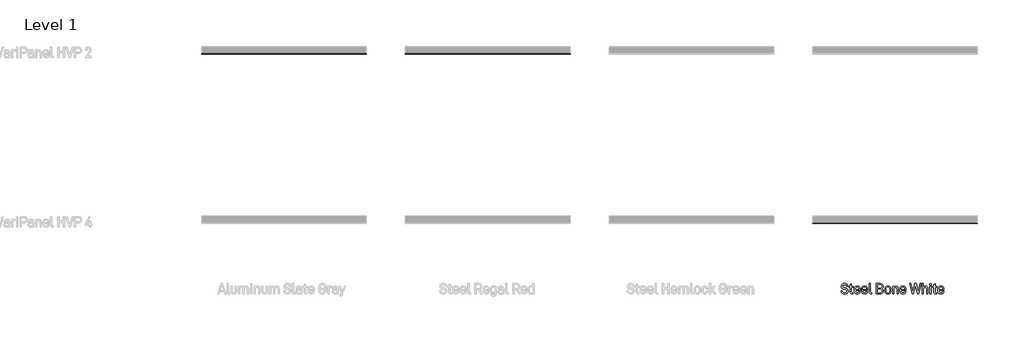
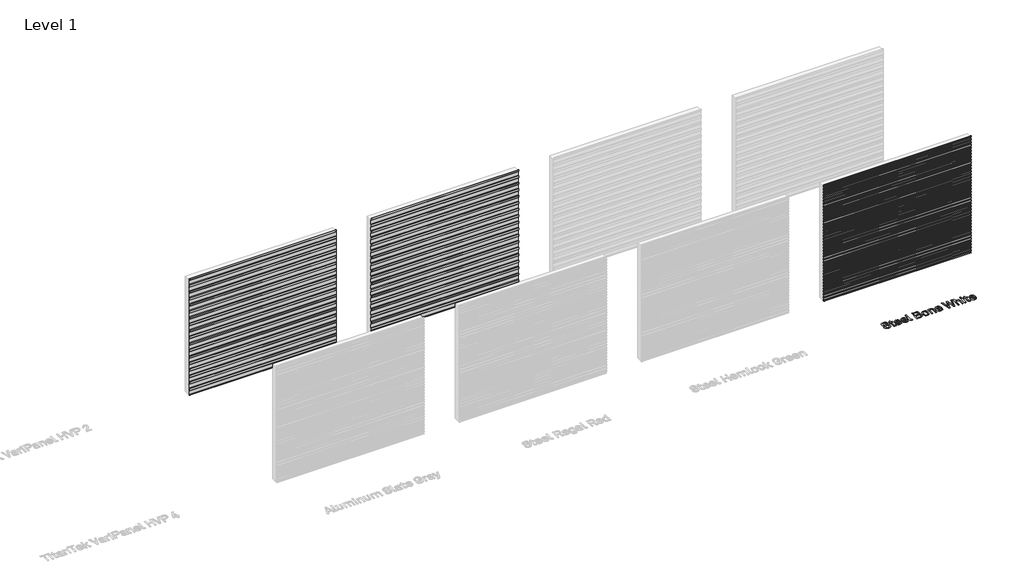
# One storey, part 8 of 33: 4 proxies.
"""IFC4 building model written with IfcOpenShell, lengths in millimetres."""

from ifc_helpers import new_model, si_unit, frame, origin, origin_with_axes, place, context, project, spatial, polyline, outline, extrude, element, save

model = new_model("IFC4")

# Units and contexts
model_context = context("Model", 3, world=origin())
ifc_project = project(units=[si_unit("LENGTHUNIT", "METRE", prefix="MILLI")], contexts=[model_context])

# Site, building, storey
site = spatial("IfcSite", under=ifc_project)
building = spatial("IfcBuilding", under=site)
storey = spatial("IfcBuildingStorey", under=building, Name="Level 1", Elevation=0.0)

# Proxies
placement = place(None, origin())
element("IfcBuildingElementProxy", 1, Name="600mm Arial 2", ObjectType="600mm Arial 2", at=placement, inside=storey, context=model_context, shape_type="SweptSolid", body=[
    extrude(outline(polyline([(16502.982716, -19997.657289), (16490.7951671, -19984.0139672), (16481.6010513, -19967.4681982), (16475.4003686, -19948.019982), (16472.1931189, -19925.6693185), (16511.5717761, -19925.6693185), (16517.1719526, -19951.3682597), (16530.1146836, -19969.7246463), (16550.3999693, -19980.7384782), (16578.0278096, -19984.4097555), (16606.0696353, -19981.079675), (16625.9955271, -19971.0894334), (16637.8964706, -19955.2215086), (16641.8634518, -19933.3849149), (16638.7517372, -19913.7865721), (16629.4165934, -19899.5381947), (16613.1665283, -19889.7845162), (16590.0379361, -19883.67027), (16556.5551591, -19878.0655442), (16523.7820715, -19868.4392459), (16499.1249177, -19852.3711523), (16490.1446186, -19841.4937991), (16483.7301192, -19828.5874624), (16478.5985197, -19796.6878384), (16480.3408979, -19777.2168757), (16485.5680325, -19760.002361), (16494.2799235, -19745.0442944), (16506.476571, -19732.3426757), (16521.2117224, -19722.4070256), (16538.048646, -19715.3101326), (16578.0278096, -19709.6326183), (16615.1864132, -19715.0007809), (16631.118028, -19721.7109842), (16645.2845182, -19731.1052687), (16657.722278, -19743.9615633), (16667.1575062, -19759.8203894), (16673.5902027, -19778.6817472), (16677.0203677, -19800.5456367), (16637.5689217, -19800.5456367), (16632.7011811, -19776.343412), (16621.0822935, -19759.0561086), (16602.7122591, -19748.6837266), (16577.5910777, -19745.226266), (16551.6783199, -19748.5563465), (16533.0444266, -19758.5465881), (16521.471032, -19774.1597526), (16517.6132337, -19794.5041791), (16520.5065824, -19812.3010029), (16529.1866284, -19825.3665648), (16544.6178213, -19834.9018774), (16566.8911468, -19841.2344896), (16601.1745989, -19847.2031585), (16635.2396851, -19857.1934001), (16660.2789792, -19874.207746), (16669.4821935, -19885.5218311), (16676.0559181, -19898.8648997), (16681.3148977, -19931.6379874), (16679.5179281, -19951.6503157), (16674.127019, -19969.2515201), (16665.1421705, -19984.4416005), (16652.5633827, -19997.2205571), (16637.1776828, -20007.3472775), (16619.2625774, -20014.5806491), (16598.8180665, -20018.9206721), (16575.8441502, -20020.3673465), (16534.9187342, -20014.6898321), (16517.8270504, -20007.5929391), (16502.982716, -19997.657289)])), origin_with_axes(), (0.0, 0.0, 1.0), 5.0),
    extrude(outline(polyline([(16777.9054305, -19958.2058431), (16779.3794006, -19969.2879144), (16783.8013108, -19977.2036796), (16791.1711612, -19981.9531387), (16801.4889517, -19983.5362918), (16822.9616021, -19983.5362918), (16822.9616021, -20017.8197439), (16796.8304784, -20017.8197439), (16773.0467884, -20013.8527627), (16754.8314298, -20001.9518191), (16743.5309926, -19983.4089116), (16739.7641802, -19959.5160387), (16739.7641802, -19823.692426), (16705.91746, -19823.692426), (16705.91746, -19791.9565765), (16739.7641802, -19791.9565765), (16739.7641802, -19743.9160704), (16777.9054305, -19725.9372749), (16777.9054305, -19791.9565765), (16826.8194004, -19791.9565765), (16826.8194004, -19823.692426), (16777.9054305, -19823.692426), (16777.9054305, -19958.2058431)])), origin_with_axes(), (0.0, 0.0, 1.0), 5.0),
    extrude(outline(polyline([(16898.8073709, -19923.5584478), (16902.2284372, -19952.9741592), (16912.4916363, -19971.9265028), (16928.9782645, -19982.2169976), (16951.0696184, -19985.6471625), (16970.3404124, -19983.0813627), (16984.4796068, -19975.3839635), (16993.1596528, -19963.6104), (16996.0530014, -19947.9426441), (16996.0530014, -19942.410707), (17032.9568448, -19942.410707), (17032.9568448, -19948.8161078), (17027.2793304, -19977.9679604), (17020.1824375, -19990.2783401), (17010.2467873, -20001.0783554), (16983.5333544, -20015.5450987), (16948.9587477, -20020.3673465), (16930.0086788, -20018.8683553), (16913.0466497, -20014.3713818), (16898.0726605, -20006.8764259), (16885.0867112, -19996.3834877), (16874.593773, -19982.7833842), (16867.0988171, -19965.9669324), (16862.6018436, -19945.9341324), (16861.1028524, -19922.684984), (16861.1028524, -19884.9804656), (16862.599569, -19862.2749574), (16867.0897186, -19842.635671), (16874.5733012, -19826.0626062), (16885.0503169, -19812.5557632), (16897.8338227, -19802.2379727), (16912.6008192, -19794.8681223), (16929.3513063, -19790.4462121), (16948.085284, -19788.972242), (16966.4871634, -19790.4462121), (16983.1148197, -19794.8681223), (16997.9682527, -19802.2379727), (17011.0474624, -19812.5557632), (17021.365253, -19825.8988318), (17028.7351033, -19842.4173051), (17033.1570136, -19862.111183), (17034.6309836, -19884.9804656), (17034.6309836, -19914.9693876), (16898.8073709, -19914.9693876), (16898.8073709, -19923.5584478)]), holes=[polyline([(16912.0549044, -19837.3766913), (16902.1192543, -19855.5010641), (16898.8073709, -19884.1070018), (16996.9264652, -19884.5437337), (16996.9264652, -19881.1226674), (16993.7055676, -19853.8815167), (16984.0428749, -19836.5032276), (16968.4297104, -19827.2226753), (16948.085284, -19824.1291578), (16927.7226604, -19827.4410412), (16912.0549044, -19837.3766913)])]), origin_with_axes(), (0.0, 0.0, 1.0), 5.0),
    extrude(outline(polyline([(17113.0971436, -19923.5584478), (17116.51821, -19952.9741592), (17126.781409, -19971.9265028), (17143.2680372, -19982.2169976), (17165.3593912, -19985.6471625), (17184.6301851, -19983.0813627), (17198.7693795, -19975.3839635), (17207.4494255, -19963.6104), (17210.3427742, -19947.9426441), (17210.3427742, -19942.410707), (17247.2466175, -19942.410707), (17247.2466175, -19948.8161078), (17241.5691031, -19977.9679604), (17234.4722102, -19990.2783401), (17224.5365601, -20001.0783554), (17197.8231271, -20015.5450987), (17163.2485204, -20020.3673465), (17144.2984515, -20018.8683553), (17127.3364224, -20014.3713818), (17112.3624332, -20006.8764259), (17099.3764839, -19996.3834877), (17088.8835457, -19982.7833842), (17081.3885899, -19965.9669324), (17076.8916163, -19945.9341324), (17075.3926252, -19922.684984), (17075.3926252, -19884.9804656), (17076.8893417, -19862.2749574), (17081.3794913, -19842.635671), (17088.8630739, -19826.0626062), (17099.3400896, -19812.5557632), (17112.1235955, -19802.2379727), (17126.890592, -19794.8681223), (17143.641079, -19790.4462121), (17162.3750567, -19788.972242), (17180.7769362, -19790.4462121), (17197.4045924, -19794.8681223), (17212.2580254, -19802.2379727), (17225.3372352, -19812.5557632), (17235.6550257, -19825.8988318), (17243.0248761, -19842.4173051), (17247.4467863, -19862.111183), (17248.9207564, -19884.9804656), (17248.9207564, -19914.9693876), (17113.0971436, -19914.9693876), (17113.0971436, -19923.5584478)]), holes=[polyline([(17126.3446771, -19837.3766913), (17116.409027, -19855.5010641), (17113.0971436, -19884.1070018), (17211.2162379, -19884.5437337), (17211.2162379, -19881.1226674), (17207.9953403, -19853.8815167), (17198.3326476, -19836.5032276), (17182.7194832, -19827.2226753), (17162.3750567, -19824.1291578), (17142.0124331, -19827.4410412), (17126.3446771, -19837.3766913)])]), origin_with_axes(), (0.0, 0.0, 1.0), 5.0),
    extrude(outline(polyline([(17311.5189916, -20001.9518191), (17300.2731458, -19982.4444621), (17296.5245306, -19956.5317042), (17296.5245306, -19713.4904165), (17334.229049, -19713.4904165), (17334.229049, -19954.7847767), (17335.6120333, -19968.1960847), (17339.7609861, -19976.6941591), (17346.7486961, -19981.1706608), (17357.3758383, -19982.662828), (17379.212432, -19982.662828), (17379.212432, -20017.8197439), (17354.3915039, -20017.8197439), (17329.5159842, -20013.8527627), (17311.5189916, -20001.9518191)])), origin_with_axes(), (0.0, 0.0, 1.0), 5.0),
    extrude(outline(polyline([(17704.1409461, -19884.9804656), (17714.1311877, -19906.6896791), (17717.4612683, -19932.5114512), (17715.8803899, -19951.3819076), (17711.1377547, -19968.1050989), (17703.2333627, -19982.6810252), (17692.1672139, -19995.1096864), (17678.3942374, -20005.0453365), (17662.3693621, -20012.1422295), (17623.5639154, -20017.8197439), (17508.2667007, -20017.8197439), (17508.2667007, -19713.4904165), (17621.0163128, -19713.4904165), (17659.4487177, -19718.8585791), (17675.0618822, -19725.5687824), (17688.2730214, -19734.9630669), (17698.9729523, -19746.9549963), (17706.6157601, -19761.0941907), (17711.2014447, -19777.3806502), (17712.7300063, -19795.8143747), (17709.5091087, -19818.6518123), (17699.846416, -19839.1236188), (17688.4004015, -19852.1891807), (17674.588756, -19861.3969444), (17691.4029331, -19871.5873548), (17704.1409461, -19884.9804656)]), holes=[polyline([(17548.1548785, -19844.218824), (17617.5952465, -19844.218824), (17640.9422045, -19841.3254754), (17658.7208312, -19832.6454294), (17669.3115792, -19818.0695031), (17672.8418285, -19797.4885135), (17669.4207621, -19777.0349041), (17659.1575631, -19761.9676545), (17641.9794427, -19752.9600596), (17617.9591897, -19749.9575279), (17548.1548785, -19749.9575279), (17548.1548785, -19844.218824)]), polyline([(17662.5786295, -19968.1050989), (17673.8244752, -19952.4555401), (17677.5730905, -19930.4005805), (17673.9336582, -19908.7277612), (17663.0153613, -19893.4967371), (17645.0183687, -19883.8886359), (17620.1428491, -19880.6859355), (17548.1548785, -19880.6859355), (17548.1548785, -19981.3526324), (17619.7061172, -19981.3526324), (17644.5816368, -19978.040749), (17662.5786295, -19968.1050989)])]), origin_with_axes(), (0.0, 0.0, 1.0), 5.0),
    extrude(outline(polyline([(17788.794141, -19998.0940209), (17778.3171253, -19985.1330927), (17770.8335427, -19968.9603655), (17766.3433931, -19949.5758393), (17764.8466766, -19926.9795141), (17764.8466766, -19882.3600743), (17766.3456677, -19859.9548194), (17770.8426412, -19840.7067719), (17778.3375971, -19824.6159319), (17788.8305353, -19811.6822994), (17801.8164846, -19801.7466493), (17816.7904738, -19794.6497564), (17852.7025718, -19788.972242), (17887.5865302, -19794.6497564), (17902.3125831, -19801.7466493), (17915.2280184, -19811.6822994), (17925.7368791, -19824.4521575), (17933.2432082, -19840.4884059), (17937.7470057, -19859.7910449), (17939.2482715, -19882.3600743), (17939.2482715, -19926.9795141), (17937.7470057, -19949.5485435), (17933.2432082, -19968.8511825), (17925.7368791, -19984.887431), (17915.2280184, -19997.657289), (17902.3125831, -20007.5929391), (17887.5865302, -20014.6898321), (17852.7025718, -20020.3673465), (17816.5630093, -20014.7990151), (17801.6322383, -20007.8386008), (17788.794141, -19998.0940209)]), holes=[polyline([(17888.2234309, -19972.399629), (17898.2136725, -19954.1660733), (17901.543753, -19925.2325866), (17901.543753, -19884.1070018), (17898.2136725, -19855.5010641), (17888.2234309, -19837.3766913), (17872.9378153, -19827.4410412), (17852.7025718, -19824.1291578), (17831.6848504, -19827.4410412), (17815.7987285, -19837.3766913), (17805.8630784, -19855.5010641), (17802.551195, -19884.1070018), (17802.551195, -19925.2325866), (17805.8630784, -19954.1660733), (17815.7987285, -19972.399629), (17831.6848504, -19982.3352791), (17852.7025718, -19985.6471625), (17872.9378153, -19982.3352791), (17888.2234309, -19972.399629)])]), origin_with_axes(), (0.0, 0.0, 1.0), 5.0),
    extrude(outline(polyline([(18027.9048419, -19791.9565765), (18027.9048419, -19810.3721038), (18046.3203692, -19797.1245703), (18063.4802924, -19791.337873), (18082.3507488, -19789.4089739), (18114.6871046, -19794.8681223), (18127.8118073, -19801.6920578), (18138.9075264, -19811.2455676), (18147.5375302, -19822.8280608), (18153.7018187, -19836.6124106), (18158.6332494, -19870.7866797), (18158.6332494, -20017.8197439), (18120.928731, -20017.8197439), (18120.928731, -19875.0812098), (18117.9261993, -19852.6987012), (18108.9186044, -19836.9399595), (18094.2243966, -19827.3318582), (18075.0354899, -19824.1291578), (18055.8647804, -19827.3318582), (18041.225164, -19836.9399595), (18031.5624713, -19853.3537991), (18028.3415737, -19875.0812098), (18028.3415737, -20017.8197439), (17990.6370553, -20017.8197439), (17990.6370553, -19791.9565765), (18027.9048419, -19791.9565765)])), origin_with_axes(), (0.0, 0.0, 1.0), 5.0),
    extrude(outline(polyline([(18245.1061604, -19923.5584478), (18248.5272268, -19952.9741592), (18258.7904258, -19971.9265028), (18275.277054, -19982.2169976), (18297.368408, -19985.6471625), (18316.6392019, -19983.0813627), (18330.7783963, -19975.3839635), (18339.4584423, -19963.6104), (18342.351791, -19947.9426441), (18342.351791, -19942.410707), (18379.2556343, -19942.410707), (18379.2556343, -19948.8161078), (18373.5781199, -19977.9679604), (18366.481227, -19990.2783401), (18356.5455769, -20001.0783554), (18329.8321439, -20015.5450987), (18295.2575372, -20020.3673465), (18276.3074683, -20018.8683553), (18259.3454392, -20014.3713818), (18244.37145, -20006.8764259), (18231.3855007, -19996.3834877), (18220.8925625, -19982.7833842), (18213.3976067, -19965.9669324), (18208.9006331, -19945.9341324), (18207.401642, -19922.684984), (18207.401642, -19884.9804656), (18208.8983585, -19862.2749574), (18213.3885081, -19842.635671), (18220.8720907, -19826.0626062), (18231.3491064, -19812.5557632), (18244.1326123, -19802.2379727), (18258.8996088, -19794.8681223), (18275.6500958, -19790.4462121), (18294.3840735, -19788.972242), (18312.785953, -19790.4462121), (18329.4136092, -19794.8681223), (18344.2670422, -19802.2379727), (18357.346252, -19812.5557632), (18367.6640425, -19825.8988318), (18375.0338929, -19842.4173051), (18379.4558031, -19862.111183), (18380.9297732, -19884.9804656), (18380.9297732, -19914.9693876), (18245.1061604, -19914.9693876), (18245.1061604, -19923.5584478)]), holes=[polyline([(18258.3536939, -19837.3766913), (18248.4180438, -19855.5010641), (18245.1061604, -19884.1070018), (18343.2252547, -19884.5437337), (18343.2252547, -19881.1226674), (18340.0043571, -19853.8815167), (18330.3416644, -19836.5032276), (18314.7285, -19827.2226753), (18294.3840735, -19824.1291578), (18274.0214499, -19827.4410412), (18258.3536939, -19837.3766913)])]), origin_with_axes(), (0.0, 0.0, 1.0), 5.0),
    extrude(outline(polyline([(18799.3916969, -19713.4904165), (18837.5329472, -19713.4904165), (18761.2504466, -20017.8197439), (18726.5302626, -20017.8197439), (18664.3687592, -19774.7784561), (18603.9541834, -20017.8197439), (18569.2339994, -20017.8197439), (18491.2773599, -19713.4904165), (18530.6560172, -19713.4904165), (18587.2855835, -19944.0848458), (18641.6587018, -19713.4904165), (18688.3890123, -19713.4904165), (18744.9457899, -19944.0848458), (18799.3916969, -19713.4904165)])), origin_with_axes(), (0.0, 0.0, 1.0), 5.0),
    extrude(outline(polyline([(18899.4760846, -19713.4904165), (18899.4760846, -19810.8088357), (18923.0596058, -19794.7589393), (18953.4852597, -19789.4089739), (18985.2757006, -19794.7589393), (18998.3731076, -19801.4463961), (19009.6053054, -19810.8088357), (19018.4263794, -19822.5823991), (19024.7271466, -19836.5032276), (19029.7677603, -19870.7866797), (19029.7677603, -20017.8197439), (18992.0632418, -20017.8197439), (18992.0632418, -19875.0812098), (18989.0607102, -19852.6987012), (18980.0531153, -19836.9399595), (18965.3589075, -19827.3318582), (18946.1700008, -19824.1291578), (18926.9992912, -19827.3318582), (18912.3596749, -19836.9399595), (18902.6969822, -19853.3537991), (18899.4760846, -19875.0812098), (18899.4760846, -20017.8197439), (18861.7715662, -20017.8197439), (18861.7715662, -19713.4904165), (18899.4760846, -19713.4904165)])), origin_with_axes(), (0.0, 0.0, 1.0), 5.0),
    extrude(outline(polyline([(19127.3773341, -19717.7849466), (19127.3773341, -19764.9519889), (19087.9258881, -19764.9519889), (19087.9258881, -19717.7849466), (19127.3773341, -19717.7849466)])), origin_with_axes(), (0.0, 0.0, 1.0), 5.0),
    extrude(outline(polyline([(19126.5038703, -19791.9565765), (19126.5038703, -20017.8197439), (19088.7993519, -20017.8197439), (19088.7993519, -19791.9565765), (19126.5038703, -19791.9565765)])), origin_with_axes(), (0.0, 0.0, 1.0), 5.0),
    extrude(outline(polyline([(19242.2378169, -19958.2058431), (19243.7117869, -19969.2879144), (19248.1336972, -19977.2036796), (19255.5035475, -19981.9531387), (19265.821338, -19983.5362918), (19287.2939885, -19983.5362918), (19287.2939885, -20017.8197439), (19261.1628647, -20017.8197439), (19237.3791748, -20013.8527627), (19219.1638162, -20001.9518191), (19207.863379, -19983.4089116), (19204.0965666, -19959.5160387), (19204.0965666, -19823.692426), (19170.2498463, -19823.692426), (19170.2498463, -19791.9565765), (19204.0965666, -19791.9565765), (19204.0965666, -19743.9160704), (19242.2378169, -19725.9372749), (19242.2378169, -19791.9565765), (19291.1517867, -19791.9565765), (19291.1517867, -19823.692426), (19242.2378169, -19823.692426), (19242.2378169, -19958.2058431)])), origin_with_axes(), (0.0, 0.0, 1.0), 5.0),
    extrude(outline(polyline([(19363.1397572, -19923.5584478), (19366.5608236, -19952.9741592), (19376.8240226, -19971.9265028), (19393.3106509, -19982.2169976), (19415.4020048, -19985.6471625), (19434.6727987, -19983.0813627), (19448.8119932, -19975.3839635), (19457.4920391, -19963.6104), (19460.3853878, -19947.9426441), (19460.3853878, -19942.410707), (19497.2892311, -19942.410707), (19497.2892311, -19948.8161078), (19491.6117168, -19977.9679604), (19484.5148238, -19990.2783401), (19474.5791737, -20001.0783554), (19447.8657408, -20015.5450987), (19413.2911341, -20020.3673465), (19394.3410651, -20018.8683553), (19377.379036, -20014.3713818), (19362.4050469, -20006.8764259), (19349.4190975, -19996.3834877), (19338.9261594, -19982.7833842), (19331.4312035, -19965.9669324), (19326.93423, -19945.9341324), (19325.4352388, -19922.684984), (19325.4352388, -19884.9804656), (19326.9319553, -19862.2749574), (19331.4221049, -19842.635671), (19338.9056875, -19826.0626062), (19349.3827032, -19812.5557632), (19362.1662091, -19802.2379727), (19376.9332056, -19794.8681223), (19393.6836927, -19790.4462121), (19412.4176703, -19788.972242), (19430.8195498, -19790.4462121), (19447.447206, -19794.8681223), (19462.300639, -19802.2379727), (19475.3798488, -19812.5557632), (19485.6976393, -19825.8988318), (19493.0674897, -19842.4173051), (19497.4893999, -19862.111183), (19498.96337, -19884.9804656), (19498.96337, -19914.9693876), (19363.1397572, -19914.9693876), (19363.1397572, -19923.5584478)]), holes=[polyline([(19376.3872908, -19837.3766913), (19366.4516406, -19855.5010641), (19363.1397572, -19884.1070018), (19461.2588516, -19884.5437337), (19461.2588516, -19881.1226674), (19458.037954, -19853.8815167), (19448.3752613, -19836.5032276), (19432.7620968, -19827.2226753), (19412.4176703, -19824.1291578), (19392.0550467, -19827.4410412), (19376.3872908, -19837.3766913)])]), origin_with_axes(), (0.0, 0.0, 1.0), 5.0),
])
element("IfcBuildingElementProxy", 2, Name="TitanTek VariPanel HVP 2 : Aluminum Slate Gray", ObjectType="TitanTek VariPanel HVP 2 : Aluminum Slate Gray", at=placement, inside=storey, context=model_context, shape_type="SweptSolid", body=[
    extrude(outline(polyline([(-12945.79831, 3997.729257), (-12921.3904975, 3972.7489785), (-12921.3904975, 3845.7489785), (-12945.79831, 3836.3796971), (-12945.79831, 3768.1495599), (-12921.3904975, 3743.1692814), (-12921.3904975, 3616.1692814), (-12945.79831, 3606.8), (-12945.79831, 3607.8627767), (-12922.382685, 3616.851193), (-12922.382685, 3742.7650244), (-12946.7904975, 3767.7453029), (-12946.7904975, 3837.0616087), (-12922.382685, 3846.43089), (-12922.382685, 3972.3447215), (-12946.7904975, 3997.325), (-12946.7904975, 4057.2691349), (-12945.79831, 4057.65), (-12945.79831, 3997.729257)])), frame((-2360.5897817, 0.0, 0.0), z_axis=(1.0, 0.0, 0.0), x_axis=(0.0, 1.0, 0.0)), (0.0, 0.0, 1.0), 4850.0),
    extrude(outline(polyline([(-12945.79831, 3546.879257), (-12921.3904975, 3521.8989785), (-12921.3904975, 3394.8989785), (-12945.79831, 3385.5296971), (-12945.79831, 3317.2995599), (-12921.3904975, 3292.3192814), (-12921.3904975, 3165.3192814), (-12945.79831, 3155.95), (-12945.79831, 3157.0127767), (-12922.382685, 3166.001193), (-12922.382685, 3291.9150244), (-12946.7904975, 3316.8953029), (-12946.7904975, 3386.2116087), (-12922.382685, 3395.58089), (-12922.382685, 3521.4947215), (-12946.7904975, 3546.475), (-12946.7904975, 3606.4191349), (-12945.79831, 3606.8), (-12945.79831, 3546.879257)])), frame((-2360.5897817, 0.0, 0.0), z_axis=(1.0, 0.0, 0.0), x_axis=(0.0, 1.0, 0.0)), (0.0, 0.0, 1.0), 4850.0),
    extrude(outline(polyline([(-12945.79831, 3096.029257), (-12921.3904975, 3071.0489785), (-12921.3904975, 2944.0489785), (-12945.79831, 2934.6796971), (-12945.79831, 2866.4495599), (-12921.3904975, 2841.4692814), (-12921.3904975, 2714.4692814), (-12945.79831, 2705.1), (-12945.79831, 2706.1627767), (-12922.382685, 2715.151193), (-12922.382685, 2841.0650244), (-12946.7904975, 2866.0453029), (-12946.7904975, 2935.3616087), (-12922.382685, 2944.73089), (-12922.382685, 3070.6447215), (-12946.7904975, 3095.625), (-12946.7904975, 3155.5691349), (-12945.79831, 3155.95), (-12945.79831, 3096.029257)])), frame((-2360.5897817, 0.0, 0.0), z_axis=(1.0, 0.0, 0.0), x_axis=(0.0, 1.0, 0.0)), (0.0, 0.0, 1.0), 4850.0),
    extrude(outline(polyline([(-12945.79831, 2645.179257), (-12921.3904975, 2620.1989785), (-12921.3904975, 2493.1989785), (-12945.79831, 2483.8296971), (-12945.79831, 2415.5995599), (-12921.3904975, 2390.6192814), (-12921.3904975, 2263.6192814), (-12945.79831, 2254.25), (-12945.79831, 2255.3127767), (-12922.382685, 2264.301193), (-12922.382685, 2390.2150244), (-12946.7904975, 2415.1953029), (-12946.7904975, 2484.5116087), (-12922.382685, 2493.88089), (-12922.382685, 2619.7947215), (-12946.7904975, 2644.775), (-12946.7904975, 2704.7191349), (-12945.79831, 2705.1), (-12945.79831, 2645.179257)])), frame((-2360.5897817, 0.0, 0.0), z_axis=(1.0, 0.0, 0.0), x_axis=(0.0, 1.0, 0.0)), (0.0, 0.0, 1.0), 4850.0),
    extrude(outline(polyline([(-12945.79831, 2194.329257), (-12921.3904975, 2169.3489785), (-12921.3904975, 2042.3489785), (-12945.79831, 2032.9796971), (-12945.79831, 1964.7495599), (-12921.3904975, 1939.7692814), (-12921.3904975, 1812.7692814), (-12945.79831, 1803.4), (-12945.79831, 1804.4627767), (-12922.382685, 1813.451193), (-12922.382685, 1939.3650244), (-12946.7904975, 1964.3453029), (-12946.7904975, 2033.6616087), (-12922.382685, 2043.03089), (-12922.382685, 2168.9447215), (-12946.7904975, 2193.925), (-12946.7904975, 2253.8691349), (-12945.79831, 2254.25), (-12945.79831, 2194.329257)])), frame((-2360.5897817, 0.0, 0.0), z_axis=(1.0, 0.0, 0.0), x_axis=(0.0, 1.0, 0.0)), (0.0, 0.0, 1.0), 4850.0),
    extrude(outline(polyline([(-12945.79831, 1743.479257), (-12921.3904975, 1718.4989785), (-12921.3904975, 1591.4989785), (-12945.79831, 1582.1296971), (-12945.79831, 1513.8995599), (-12921.3904975, 1488.9192814), (-12921.3904975, 1361.9192814), (-12945.79831, 1352.55), (-12945.79831, 1353.6127767), (-12922.382685, 1362.601193), (-12922.382685, 1488.5150244), (-12946.7904975, 1513.4953029), (-12946.7904975, 1582.8116087), (-12922.382685, 1592.18089), (-12922.382685, 1718.0947215), (-12946.7904975, 1743.075), (-12946.7904975, 1803.0191349), (-12945.79831, 1803.4), (-12945.79831, 1743.479257)])), frame((-2360.5897817, 0.0, 0.0), z_axis=(1.0, 0.0, 0.0), x_axis=(0.0, 1.0, 0.0)), (0.0, 0.0, 1.0), 4850.0),
    extrude(outline(polyline([(-12945.79831, 1292.629257), (-12921.3904975, 1267.6489785), (-12921.3904975, 1140.6489785), (-12945.79831, 1131.2796971), (-12945.79831, 1063.0495599), (-12921.3904975, 1038.0692814), (-12921.3904975, 911.0692814), (-12945.79831, 901.7), (-12945.79831, 902.7627767), (-12922.382685, 911.751193), (-12922.382685, 1037.6650244), (-12946.7904975, 1062.6453029), (-12946.7904975, 1131.9616087), (-12922.382685, 1141.33089), (-12922.382685, 1267.2447215), (-12946.7904975, 1292.225), (-12946.7904975, 1352.1691349), (-12945.79831, 1352.55), (-12945.79831, 1292.629257)])), frame((-2360.5897817, 0.0, 0.0), z_axis=(1.0, 0.0, 0.0), x_axis=(0.0, 1.0, 0.0)), (0.0, 0.0, 1.0), 4850.0),
    extrude(outline(polyline([(-12945.79831, 841.779257), (-12921.3904975, 816.7989785), (-12921.3904975, 689.7989785), (-12945.79831, 680.4296971), (-12945.79831, 612.1995599), (-12921.3904975, 587.2192814), (-12921.3904975, 460.2192814), (-12945.79831, 450.85), (-12945.79831, 451.9127767), (-12922.382685, 460.901193), (-12922.382685, 586.8150244), (-12946.7904975, 611.7953029), (-12946.7904975, 681.1116087), (-12922.382685, 690.48089), (-12922.382685, 816.3947215), (-12946.7904975, 841.375), (-12946.7904975, 901.3191349), (-12945.79831, 901.7), (-12945.79831, 841.779257)])), frame((-2360.5897817, 0.0, 0.0), z_axis=(1.0, 0.0, 0.0), x_axis=(0.0, 1.0, 0.0)), (0.0, 0.0, 1.0), 4850.0),
    extrude(outline(polyline([(-12945.79831, 390.929257), (-12921.3904975, 365.9489785), (-12921.3904975, 238.9489785), (-12945.79831, 229.5796971), (-12945.79831, 161.3495599), (-12921.3904975, 136.3692814), (-12921.3904975, 9.3692814), (-12945.79831, 0.0), (-12945.79831, 1.0627767), (-12922.382685, 10.051193), (-12922.382685, 135.9650244), (-12946.7904975, 160.9453029), (-12946.7904975, 230.2616087), (-12922.382685, 239.63089), (-12922.382685, 365.5447215), (-12946.7904975, 390.525), (-12946.7904975, 450.4691349), (-12945.79831, 450.85), (-12945.79831, 390.929257)])), frame((-2360.5897817, 0.0, 0.0), z_axis=(1.0, 0.0, 0.0), x_axis=(0.0, 1.0, 0.0)), (0.0, 0.0, 1.0), 4850.0),
])
element("IfcBuildingElementProxy", 3, Name="TitanTek VariPanel HVP 4 : Steel Bone White", ObjectType="TitanTek VariPanel HVP 4 : Steel Bone White", at=placement, inside=storey, context=model_context, shape_type="SweptSolid", body=[
    extrude(outline(polyline([(-17945.79831, 375.054257), (-17921.3904975, 350.0739785), (-17921.3904975, 318.3239785), (-17945.79831, 308.9546971), (-17945.79831, 272.0693579), (-17921.3904975, 247.0890794), (-17921.3904975, 215.3390794), (-17945.79831, 205.9697981), (-17945.79831, 169.0844589), (-17921.3904975, 144.1041804), (-17921.3904975, 112.3541804), (-17945.79831, 102.984899), (-17945.79831, 66.0995599), (-17921.3904975, 41.1192814), (-17921.3904975, 9.3692814), (-17945.79831, 0.0), (-17945.79831, 1.0627767), (-17922.382685, 10.051193), (-17922.382685, 40.7150244), (-17946.7904975, 65.6953029), (-17946.7904975, 103.6668106), (-17922.382685, 113.036092), (-17922.382685, 143.6999234), (-17946.7904975, 168.6802019), (-17946.7904975, 206.6517096), (-17922.382685, 216.020991), (-17922.382685, 246.6848225), (-17946.7904975, 271.665101), (-17946.7904975, 309.6366087), (-17922.382685, 319.00589), (-17922.382685, 349.6697215), (-17946.7904975, 374.65), (-17946.7904975, 407.0819116), (-17945.79831, 407.4627767), (-17945.79831, 375.054257)])), frame((15639.4102183, 0.0, 0.0), z_axis=(1.0, 0.0, 0.0), x_axis=(0.0, 1.0, 0.0)), (0.0, 0.0, 1.0), 4850.0),
    extrude(outline(polyline([(-17945.79831, 781.454257), (-17921.3904975, 756.4739785), (-17921.3904975, 724.7239785), (-17945.79831, 715.3546971), (-17945.79831, 678.4693579), (-17921.3904975, 653.4890794), (-17921.3904975, 621.7390794), (-17945.79831, 612.3697981), (-17945.79831, 575.4844589), (-17921.3904975, 550.5041804), (-17921.3904975, 518.7541804), (-17945.79831, 509.384899), (-17945.79831, 472.4995599), (-17921.3904975, 447.5192814), (-17921.3904975, 415.7692814), (-17945.79831, 406.4), (-17945.79831, 407.4627767), (-17922.382685, 416.451193), (-17922.382685, 447.1150244), (-17946.7904975, 472.0953029), (-17946.7904975, 510.0668106), (-17922.382685, 519.436092), (-17922.382685, 550.0999234), (-17946.7904975, 575.0802019), (-17946.7904975, 613.0517096), (-17922.382685, 622.420991), (-17922.382685, 653.0848225), (-17946.7904975, 678.065101), (-17946.7904975, 716.0366087), (-17922.382685, 725.40589), (-17922.382685, 756.0697215), (-17946.7904975, 781.05), (-17946.7904975, 813.4819116), (-17945.79831, 813.8627767), (-17945.79831, 781.454257)])), frame((15639.4102183, 0.0, 0.0), z_axis=(1.0, 0.0, 0.0), x_axis=(0.0, 1.0, 0.0)), (0.0, 0.0, 1.0), 4850.0),
    extrude(outline(polyline([(-17945.79831, 1187.854257), (-17921.3904975, 1162.8739785), (-17921.3904975, 1131.1239785), (-17945.79831, 1121.7546971), (-17945.79831, 1084.8693579), (-17921.3904975, 1059.8890794), (-17921.3904975, 1028.1390794), (-17945.79831, 1018.7697981), (-17945.79831, 981.8844589), (-17921.3904975, 956.9041804), (-17921.3904975, 925.1541804), (-17945.79831, 915.784899), (-17945.79831, 878.8995599), (-17921.3904975, 853.9192814), (-17921.3904975, 822.1692814), (-17945.79831, 812.8), (-17945.79831, 813.8627767), (-17922.382685, 822.851193), (-17922.382685, 853.5150244), (-17946.7904975, 878.4953029), (-17946.7904975, 916.4668106), (-17922.382685, 925.836092), (-17922.382685, 956.4999234), (-17946.7904975, 981.4802019), (-17946.7904975, 1019.4517096), (-17922.382685, 1028.820991), (-17922.382685, 1059.4848225), (-17946.7904975, 1084.465101), (-17946.7904975, 1122.4366087), (-17922.382685, 1131.80589), (-17922.382685, 1162.4697215), (-17946.7904975, 1187.45), (-17946.7904975, 1219.8819116), (-17945.79831, 1220.2627767), (-17945.79831, 1187.854257)])), frame((15639.4102183, 0.0, 0.0), z_axis=(1.0, 0.0, 0.0), x_axis=(0.0, 1.0, 0.0)), (0.0, 0.0, 1.0), 4850.0),
    extrude(outline(polyline([(-17945.79831, 1594.254257), (-17921.3904975, 1569.2739785), (-17921.3904975, 1537.5239785), (-17945.79831, 1528.1546971), (-17945.79831, 1491.2693579), (-17921.3904975, 1466.2890794), (-17921.3904975, 1434.5390794), (-17945.79831, 1425.1697981), (-17945.79831, 1388.2844589), (-17921.3904975, 1363.3041804), (-17921.3904975, 1331.5541804), (-17945.79831, 1322.184899), (-17945.79831, 1285.2995599), (-17921.3904975, 1260.3192814), (-17921.3904975, 1228.5692814), (-17945.79831, 1219.2), (-17945.79831, 1220.2627767), (-17922.382685, 1229.251193), (-17922.382685, 1259.9150244), (-17946.7904975, 1284.8953029), (-17946.7904975, 1322.8668106), (-17922.382685, 1332.236092), (-17922.382685, 1362.8999234), (-17946.7904975, 1387.8802019), (-17946.7904975, 1425.8517096), (-17922.382685, 1435.220991), (-17922.382685, 1465.8848225), (-17946.7904975, 1490.865101), (-17946.7904975, 1528.8366087), (-17922.382685, 1538.20589), (-17922.382685, 1568.8697215), (-17946.7904975, 1593.85), (-17946.7904975, 1626.2819116), (-17945.79831, 1626.6627767), (-17945.79831, 1594.254257)])), frame((15639.4102183, 0.0, 0.0), z_axis=(1.0, 0.0, 0.0), x_axis=(0.0, 1.0, 0.0)), (0.0, 0.0, 1.0), 4850.0),
    extrude(outline(polyline([(-17945.79831, 2000.654257), (-17921.3904975, 1975.6739785), (-17921.3904975, 1943.9239785), (-17945.79831, 1934.5546971), (-17945.79831, 1897.6693579), (-17921.3904975, 1872.6890794), (-17921.3904975, 1840.9390794), (-17945.79831, 1831.5697981), (-17945.79831, 1794.6844589), (-17921.3904975, 1769.7041804), (-17921.3904975, 1737.9541804), (-17945.79831, 1728.584899), (-17945.79831, 1691.6995599), (-17921.3904975, 1666.7192814), (-17921.3904975, 1634.9692814), (-17945.79831, 1625.6), (-17945.79831, 1626.6627767), (-17922.382685, 1635.651193), (-17922.382685, 1666.3150244), (-17946.7904975, 1691.2953029), (-17946.7904975, 1729.2668106), (-17922.382685, 1738.636092), (-17922.382685, 1769.2999234), (-17946.7904975, 1794.2802019), (-17946.7904975, 1832.2517096), (-17922.382685, 1841.620991), (-17922.382685, 1872.2848225), (-17946.7904975, 1897.265101), (-17946.7904975, 1935.2366087), (-17922.382685, 1944.60589), (-17922.382685, 1975.2697215), (-17946.7904975, 2000.25), (-17946.7904975, 2032.6819116), (-17945.79831, 2033.0627767), (-17945.79831, 2000.654257)])), frame((15639.4102183, 0.0, 0.0), z_axis=(1.0, 0.0, 0.0), x_axis=(0.0, 1.0, 0.0)), (0.0, 0.0, 1.0), 4850.0),
    extrude(outline(polyline([(-17945.79831, 2407.054257), (-17921.3904975, 2382.0739785), (-17921.3904975, 2350.3239785), (-17945.79831, 2340.9546971), (-17945.79831, 2304.0693579), (-17921.3904975, 2279.0890794), (-17921.3904975, 2247.3390794), (-17945.79831, 2237.9697981), (-17945.79831, 2201.0844589), (-17921.3904975, 2176.1041804), (-17921.3904975, 2144.3541804), (-17945.79831, 2134.984899), (-17945.79831, 2098.0995599), (-17921.3904975, 2073.1192814), (-17921.3904975, 2041.3692814), (-17945.79831, 2032.0), (-17945.79831, 2033.0627767), (-17922.382685, 2042.051193), (-17922.382685, 2072.7150244), (-17946.7904975, 2097.6953029), (-17946.7904975, 2135.6668106), (-17922.382685, 2145.036092), (-17922.382685, 2175.6999234), (-17946.7904975, 2200.6802019), (-17946.7904975, 2238.6517096), (-17922.382685, 2248.020991), (-17922.382685, 2278.6848225), (-17946.7904975, 2303.665101), (-17946.7904975, 2341.6366087), (-17922.382685, 2351.00589), (-17922.382685, 2381.6697215), (-17946.7904975, 2406.65), (-17946.7904975, 2439.0819116), (-17945.79831, 2439.4627767), (-17945.79831, 2407.054257)])), frame((15639.4102183, 0.0, 0.0), z_axis=(1.0, 0.0, 0.0), x_axis=(0.0, 1.0, 0.0)), (0.0, 0.0, 1.0), 4850.0),
    extrude(outline(polyline([(-17945.79831, 2813.454257), (-17921.3904975, 2788.4739785), (-17921.3904975, 2756.7239785), (-17945.79831, 2747.3546971), (-17945.79831, 2710.4693579), (-17921.3904975, 2685.4890794), (-17921.3904975, 2653.7390794), (-17945.79831, 2644.3697981), (-17945.79831, 2607.4844589), (-17921.3904975, 2582.5041804), (-17921.3904975, 2550.7541804), (-17945.79831, 2541.384899), (-17945.79831, 2504.4995599), (-17921.3904975, 2479.5192814), (-17921.3904975, 2447.7692814), (-17945.79831, 2438.4), (-17945.79831, 2439.4627767), (-17922.382685, 2448.451193), (-17922.382685, 2479.1150244), (-17946.7904975, 2504.0953029), (-17946.7904975, 2542.0668106), (-17922.382685, 2551.436092), (-17922.382685, 2582.0999234), (-17946.7904975, 2607.0802019), (-17946.7904975, 2645.0517096), (-17922.382685, 2654.420991), (-17922.382685, 2685.0848225), (-17946.7904975, 2710.065101), (-17946.7904975, 2748.0366087), (-17922.382685, 2757.40589), (-17922.382685, 2788.0697215), (-17946.7904975, 2813.05), (-17946.7904975, 2845.4819116), (-17945.79831, 2845.8627767), (-17945.79831, 2813.454257)])), frame((15639.4102183, 0.0, 0.0), z_axis=(1.0, 0.0, 0.0), x_axis=(0.0, 1.0, 0.0)), (0.0, 0.0, 1.0), 4850.0),
    extrude(outline(polyline([(-17945.79831, 3219.854257), (-17921.3904975, 3194.8739785), (-17921.3904975, 3163.1239785), (-17945.79831, 3153.7546971), (-17945.79831, 3116.8693579), (-17921.3904975, 3091.8890794), (-17921.3904975, 3060.1390794), (-17945.79831, 3050.7697981), (-17945.79831, 3013.8844589), (-17921.3904975, 2988.9041804), (-17921.3904975, 2957.1541804), (-17945.79831, 2947.784899), (-17945.79831, 2910.8995599), (-17921.3904975, 2885.9192814), (-17921.3904975, 2854.1692814), (-17945.79831, 2844.8), (-17945.79831, 2845.8627767), (-17922.382685, 2854.851193), (-17922.382685, 2885.5150244), (-17946.7904975, 2910.4953029), (-17946.7904975, 2948.4668106), (-17922.382685, 2957.836092), (-17922.382685, 2988.4999234), (-17946.7904975, 3013.4802019), (-17946.7904975, 3051.4517096), (-17922.382685, 3060.820991), (-17922.382685, 3091.4848225), (-17946.7904975, 3116.465101), (-17946.7904975, 3154.4366087), (-17922.382685, 3163.80589), (-17922.382685, 3194.4697215), (-17946.7904975, 3219.45), (-17946.7904975, 3251.8819116), (-17945.79831, 3252.2627767), (-17945.79831, 3219.854257)])), frame((15639.4102183, 0.0, 0.0), z_axis=(1.0, 0.0, 0.0), x_axis=(0.0, 1.0, 0.0)), (0.0, 0.0, 1.0), 4850.0),
    extrude(outline(polyline([(-17945.79831, 3626.254257), (-17921.3904975, 3601.2739785), (-17921.3904975, 3569.5239785), (-17945.79831, 3560.1546971), (-17945.79831, 3523.2693579), (-17921.3904975, 3498.2890794), (-17921.3904975, 3466.5390794), (-17945.79831, 3457.1697981), (-17945.79831, 3420.2844589), (-17921.3904975, 3395.3041804), (-17921.3904975, 3363.5541804), (-17945.79831, 3354.184899), (-17945.79831, 3317.2995599), (-17921.3904975, 3292.3192814), (-17921.3904975, 3260.5692814), (-17945.79831, 3251.2), (-17945.79831, 3252.2627767), (-17922.382685, 3261.251193), (-17922.382685, 3291.9150244), (-17946.7904975, 3316.8953029), (-17946.7904975, 3354.8668106), (-17922.382685, 3364.236092), (-17922.382685, 3394.8999234), (-17946.7904975, 3419.8802019), (-17946.7904975, 3457.8517096), (-17922.382685, 3467.220991), (-17922.382685, 3497.8848225), (-17946.7904975, 3522.865101), (-17946.7904975, 3560.8366087), (-17922.382685, 3570.20589), (-17922.382685, 3600.8697215), (-17946.7904975, 3625.85), (-17946.7904975, 3658.2819116), (-17945.79831, 3658.6627767), (-17945.79831, 3626.254257)])), frame((15639.4102183, 0.0, 0.0), z_axis=(1.0, 0.0, 0.0), x_axis=(0.0, 1.0, 0.0)), (0.0, 0.0, 1.0), 4850.0),
    extrude(outline(polyline([(-17945.79831, 4032.654257), (-17921.3904975, 4007.6739785), (-17921.3904975, 3975.9239785), (-17945.79831, 3966.5546971), (-17945.79831, 3929.6693579), (-17921.3904975, 3904.6890794), (-17921.3904975, 3872.9390794), (-17945.79831, 3863.5697981), (-17945.79831, 3826.6844589), (-17921.3904975, 3801.7041804), (-17921.3904975, 3769.9541804), (-17945.79831, 3760.584899), (-17945.79831, 3723.6995599), (-17921.3904975, 3698.7192814), (-17921.3904975, 3666.9692814), (-17945.79831, 3657.6), (-17945.79831, 3658.6627767), (-17922.382685, 3667.651193), (-17922.382685, 3698.3150244), (-17946.7904975, 3723.2953029), (-17946.7904975, 3761.2668106), (-17922.382685, 3770.636092), (-17922.382685, 3801.2999234), (-17946.7904975, 3826.2802019), (-17946.7904975, 3864.2517096), (-17922.382685, 3873.620991), (-17922.382685, 3904.2848225), (-17946.7904975, 3929.265101), (-17946.7904975, 3967.2366087), (-17922.382685, 3976.60589), (-17922.382685, 4007.2697215), (-17946.7904975, 4032.25), (-17946.7904975, 4064.6819116), (-17945.79831, 4065.0627767), (-17945.79831, 4032.654257)])), frame((15639.4102183, 0.0, 0.0), z_axis=(1.0, 0.0, 0.0), x_axis=(0.0, 1.0, 0.0)), (0.0, 0.0, 1.0), 4850.0),
])
element("IfcBuildingElementProxy", 4, Name="TitanTek VariPanel HVP 2 : Steel Regal Red", ObjectType="TitanTek VariPanel HVP 2 : Steel Regal Red", at=placement, inside=storey, context=model_context, shape_type="SweptSolid", body=[
    extrude(outline(polyline([(-12945.79831, 390.929257), (-12921.3904975, 365.9489785), (-12921.3904975, 238.9489785), (-12945.79831, 229.5796971), (-12945.79831, 161.3495599), (-12921.3904975, 136.3692814), (-12921.3904975, 9.3692814), (-12945.79831, 0.0), (-12945.79831, 1.0627767), (-12922.382685, 10.051193), (-12922.382685, 135.9650244), (-12946.7904975, 160.9453029), (-12946.7904975, 230.2616087), (-12922.382685, 239.63089), (-12922.382685, 365.5447215), (-12946.7904975, 390.525), (-12946.7904975, 450.4691349), (-12945.79831, 450.85), (-12945.79831, 390.929257)])), frame((3639.4102183, 0.0, 0.0), z_axis=(1.0, 0.0, 0.0), x_axis=(0.0, 1.0, 0.0)), (0.0, 0.0, 1.0), 4850.0),
    extrude(outline(polyline([(-12945.79831, 841.779257), (-12921.3904975, 816.7989785), (-12921.3904975, 689.7989785), (-12945.79831, 680.4296971), (-12945.79831, 612.1995599), (-12921.3904975, 587.2192814), (-12921.3904975, 460.2192814), (-12945.79831, 450.85), (-12945.79831, 451.9127767), (-12922.382685, 460.901193), (-12922.382685, 586.8150244), (-12946.7904975, 611.7953029), (-12946.7904975, 681.1116087), (-12922.382685, 690.48089), (-12922.382685, 816.3947215), (-12946.7904975, 841.375), (-12946.7904975, 901.3191349), (-12945.79831, 901.7), (-12945.79831, 841.779257)])), frame((3639.4102183, 0.0, 0.0), z_axis=(1.0, 0.0, 0.0), x_axis=(0.0, 1.0, 0.0)), (0.0, 0.0, 1.0), 4850.0),
    extrude(outline(polyline([(-12945.79831, 1292.629257), (-12921.3904975, 1267.6489785), (-12921.3904975, 1140.6489785), (-12945.79831, 1131.2796971), (-12945.79831, 1063.0495599), (-12921.3904975, 1038.0692814), (-12921.3904975, 911.0692814), (-12945.79831, 901.7), (-12945.79831, 902.7627767), (-12922.382685, 911.751193), (-12922.382685, 1037.6650244), (-12946.7904975, 1062.6453029), (-12946.7904975, 1131.9616087), (-12922.382685, 1141.33089), (-12922.382685, 1267.2447215), (-12946.7904975, 1292.225), (-12946.7904975, 1352.1691349), (-12945.79831, 1352.55), (-12945.79831, 1292.629257)])), frame((3639.4102183, 0.0, 0.0), z_axis=(1.0, 0.0, 0.0), x_axis=(0.0, 1.0, 0.0)), (0.0, 0.0, 1.0), 4850.0),
    extrude(outline(polyline([(-12945.79831, 1743.479257), (-12921.3904975, 1718.4989785), (-12921.3904975, 1591.4989785), (-12945.79831, 1582.1296971), (-12945.79831, 1513.8995599), (-12921.3904975, 1488.9192814), (-12921.3904975, 1361.9192814), (-12945.79831, 1352.55), (-12945.79831, 1353.6127767), (-12922.382685, 1362.601193), (-12922.382685, 1488.5150244), (-12946.7904975, 1513.4953029), (-12946.7904975, 1582.8116087), (-12922.382685, 1592.18089), (-12922.382685, 1718.0947215), (-12946.7904975, 1743.075), (-12946.7904975, 1803.0191349), (-12945.79831, 1803.4), (-12945.79831, 1743.479257)])), frame((3639.4102183, 0.0, 0.0), z_axis=(1.0, 0.0, 0.0), x_axis=(0.0, 1.0, 0.0)), (0.0, 0.0, 1.0), 4850.0),
    extrude(outline(polyline([(-12945.79831, 2194.329257), (-12921.3904975, 2169.3489785), (-12921.3904975, 2042.3489785), (-12945.79831, 2032.9796971), (-12945.79831, 1964.7495599), (-12921.3904975, 1939.7692814), (-12921.3904975, 1812.7692814), (-12945.79831, 1803.4), (-12945.79831, 1804.4627767), (-12922.382685, 1813.451193), (-12922.382685, 1939.3650244), (-12946.7904975, 1964.3453029), (-12946.7904975, 2033.6616087), (-12922.382685, 2043.03089), (-12922.382685, 2168.9447215), (-12946.7904975, 2193.925), (-12946.7904975, 2253.8691349), (-12945.79831, 2254.25), (-12945.79831, 2194.329257)])), frame((3639.4102183, 0.0, 0.0), z_axis=(1.0, 0.0, 0.0), x_axis=(0.0, 1.0, 0.0)), (0.0, 0.0, 1.0), 4850.0),
    extrude(outline(polyline([(-12945.79831, 2645.179257), (-12921.3904975, 2620.1989785), (-12921.3904975, 2493.1989785), (-12945.79831, 2483.8296971), (-12945.79831, 2415.5995599), (-12921.3904975, 2390.6192814), (-12921.3904975, 2263.6192814), (-12945.79831, 2254.25), (-12945.79831, 2255.3127767), (-12922.382685, 2264.301193), (-12922.382685, 2390.2150244), (-12946.7904975, 2415.1953029), (-12946.7904975, 2484.5116087), (-12922.382685, 2493.88089), (-12922.382685, 2619.7947215), (-12946.7904975, 2644.775), (-12946.7904975, 2704.7191349), (-12945.79831, 2705.1), (-12945.79831, 2645.179257)])), frame((3639.4102183, 0.0, 0.0), z_axis=(1.0, 0.0, 0.0), x_axis=(0.0, 1.0, 0.0)), (0.0, 0.0, 1.0), 4850.0),
    extrude(outline(polyline([(-12945.79831, 3096.029257), (-12921.3904975, 3071.0489785), (-12921.3904975, 2944.0489785), (-12945.79831, 2934.6796971), (-12945.79831, 2866.4495599), (-12921.3904975, 2841.4692814), (-12921.3904975, 2714.4692814), (-12945.79831, 2705.1), (-12945.79831, 2706.1627767), (-12922.382685, 2715.151193), (-12922.382685, 2841.0650244), (-12946.7904975, 2866.0453029), (-12946.7904975, 2935.3616087), (-12922.382685, 2944.73089), (-12922.382685, 3070.6447215), (-12946.7904975, 3095.625), (-12946.7904975, 3155.5691349), (-12945.79831, 3155.95), (-12945.79831, 3096.029257)])), frame((3639.4102183, 0.0, 0.0), z_axis=(1.0, 0.0, 0.0), x_axis=(0.0, 1.0, 0.0)), (0.0, 0.0, 1.0), 4850.0),
    extrude(outline(polyline([(-12945.79831, 3546.879257), (-12921.3904975, 3521.8989785), (-12921.3904975, 3394.8989785), (-12945.79831, 3385.5296971), (-12945.79831, 3317.2995599), (-12921.3904975, 3292.3192814), (-12921.3904975, 3165.3192814), (-12945.79831, 3155.95), (-12945.79831, 3157.0127767), (-12922.382685, 3166.001193), (-12922.382685, 3291.9150244), (-12946.7904975, 3316.8953029), (-12946.7904975, 3386.2116087), (-12922.382685, 3395.58089), (-12922.382685, 3521.4947215), (-12946.7904975, 3546.475), (-12946.7904975, 3606.4191349), (-12945.79831, 3606.8), (-12945.79831, 3546.879257)])), frame((3639.4102183, 0.0, 0.0), z_axis=(1.0, 0.0, 0.0), x_axis=(0.0, 1.0, 0.0)), (0.0, 0.0, 1.0), 4850.0),
    extrude(outline(polyline([(-12945.79831, 3997.729257), (-12921.3904975, 3972.7489785), (-12921.3904975, 3845.7489785), (-12945.79831, 3836.3796971), (-12945.79831, 3768.1495599), (-12921.3904975, 3743.1692814), (-12921.3904975, 3616.1692814), (-12945.79831, 3606.8), (-12945.79831, 3607.8627767), (-12922.382685, 3616.851193), (-12922.382685, 3742.7650244), (-12946.7904975, 3767.7453029), (-12946.7904975, 3837.0616087), (-12922.382685, 3846.43089), (-12922.382685, 3972.3447215), (-12946.7904975, 3997.325), (-12946.7904975, 4057.2691349), (-12945.79831, 4057.65), (-12945.79831, 3997.729257)])), frame((3639.4102183, 0.0, 0.0), z_axis=(1.0, 0.0, 0.0), x_axis=(0.0, 1.0, 0.0)), (0.0, 0.0, 1.0), 4850.0),
])

save(model, "model.ifc")
